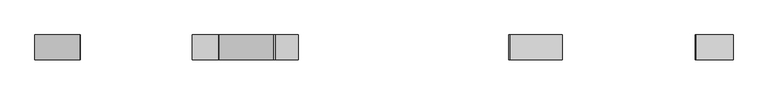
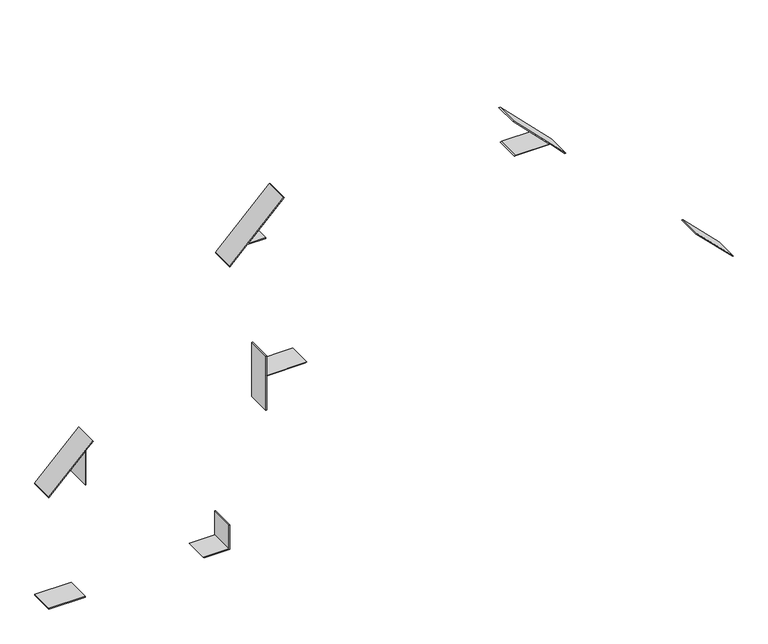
"""IFC4 building model written with IfcOpenShell, lengths in millimetres: beam geometry, 结构框架 10 : 结构框架 3."""

from ifc_helpers import new_model, si_unit, frame, origin, place, context, project, spatial, polyline, outline, extrude, source, transform, mapped, element, save


def beam_f5f27abd(model_context):
    return source(origin(), model_context, "Body", "SweptSolid", [
        extrude(outline(polyline([(8111.4481784, 24002.0009722), (7937.6248019, 23828.1775957), (7933.3821612, 23828.1775957), (8077.3821612, 23972.1775957), (7937.6248019, 23972.1775957), (7934.6248019, 23975.1775957), (8080.3821612, 23975.1775957), (8109.326858, 24004.1222925), (8111.4481784, 24002.0009722)])), frame((0.0, 38368.726646, 0.0), z_axis=(0.0, 1.0, 0.0), x_axis=(0.0, 0.0, 1.0)), (0.0, 0.0, 1.0), 97.0),
        extrude(outline(polyline([(8869.4702707, 24760.0230645), (8656.6614114, 24547.2142052), (8652.4187707, 24547.2142052), (8722.4702707, 24617.2657052), (8722.4702707, 24691.2142052), (8725.4702707, 24691.2142052), (8725.4702707, 24620.2657052), (8869.4702707, 24764.2657052), (8869.4702707, 24760.0230645)])), frame((0.0, 38368.726646, 0.0), z_axis=(0.0, 1.0, 0.0), x_axis=(0.0, 0.0, 1.0)), (0.0, 0.0, 1.0), 97.0),
        extrude(outline(polyline([(8664.4547008, 25883.4209158), (8869.4702707, 25678.4053459), (8869.4702707, 25674.1627052), (8725.4702707, 25818.1627052), (8725.4702707, 25684.6039261), (8722.4702707, 25678.6547147), (8722.4702707, 25821.1627052), (8663.0324613, 25880.6005146), (8664.4547008, 25883.4209158)])), frame((0.0, 38368.726646, 0.0), z_axis=(0.0, 1.0, 0.0), x_axis=(0.0, 0.0, 1.0)), (0.0, 0.0, 1.0), 97.0),
        extrude(outline(polyline([(7998.4115543, 26549.4640623), (8142.4115543, 26405.4640623), (8142.4115543, 26401.2214216), (7998.4115543, 26545.2214216), (7998.4115543, 26549.4640623)])), frame((0.0, 38368.726646, 0.0), z_axis=(0.0, 1.0, 0.0), x_axis=(0.0, 0.0, 1.0)), (0.0, 0.0, 1.0), 97.0),
        extrude(outline(polyline([(7998.4115543, 24691.2142052), (7998.4115543, 24694.2142052), (8142.4115543, 24694.2142052), (8142.4115543, 24848.1725757), (8145.4115543, 24854.1217871), (8145.4115543, 24694.2142052), (8226.0479137, 24694.2142052), (8224.5351081, 24691.2142052), (7998.4115543, 24691.2142052)])), frame((0.0, 38368.726646, 0.0), z_axis=(0.0, 1.0, 0.0), x_axis=(0.0, 0.0, 1.0)), (0.0, 0.0, 1.0), 97.0),
        extrude(outline(polyline([(23972.1775957, 38368.726646), (23828.1775957, 38368.726646), (23828.1775957, 38465.726646), (23972.1775957, 38465.726646), (23972.1775957, 38368.726646)])), frame((0.0, 0.0, 7464.4115689), z_axis=(0.0, 0.0, 1.0), x_axis=(1.0, 0.0, 0.0)), (0.0, 0.0, 1.0), 3.0),
        extrude(outline(polyline([(7464.4115689, 24547.2142052), (7566.2349453, 24547.2142052), (7569.2349453, 24544.2142052), (7467.4115689, 24544.2142052), (7467.4115689, 24442.3908287), (7464.4115689, 24445.3908287), (7464.4115689, 24547.2142052)])), frame((0.0, 38368.726646, 0.0), z_axis=(0.0, 1.0, 0.0), x_axis=(0.0, 0.0, 1.0)), (0.0, 0.0, 1.0), 97.0),
    ])


if __name__ == "__main__":
    model = new_model("IFC4")
    model_context = context("Model", 3, world=origin())
    ifc_project = project(units=[si_unit("LENGTHUNIT", "METRE", prefix="MILLI")], contexts=[model_context])
    site = spatial("IfcSite", under=ifc_project)
    building = spatial("IfcBuilding", under=site)
    placement = place(None, origin())
    beam_shape = beam_f5f27abd(model_context)
    element("IfcBeam", 1, ObjectType="结构框架 10 : 结构框架 3", at=placement, inside=building, context=model_context, shape_type="MappedRepresentation", body=[
        mapped(beam_shape, transform((0.0, 0.0, 0.0), x_axis=(1.0, 0.0, 0.0), y_axis=(0.0, 1.0, 0.0), z_axis=(0.0, 0.0, 1.0))),
    ])
    save(model, "model.ifc")
